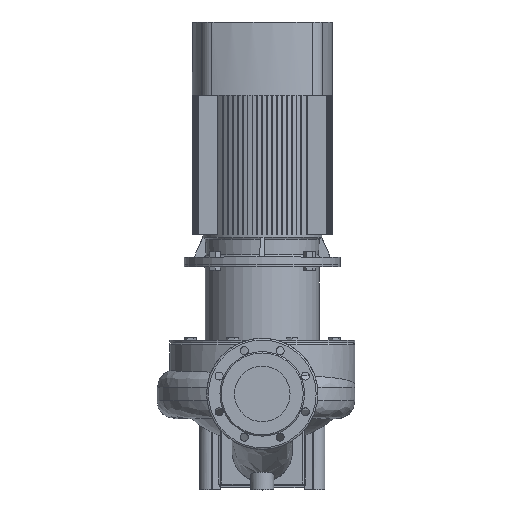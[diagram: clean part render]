
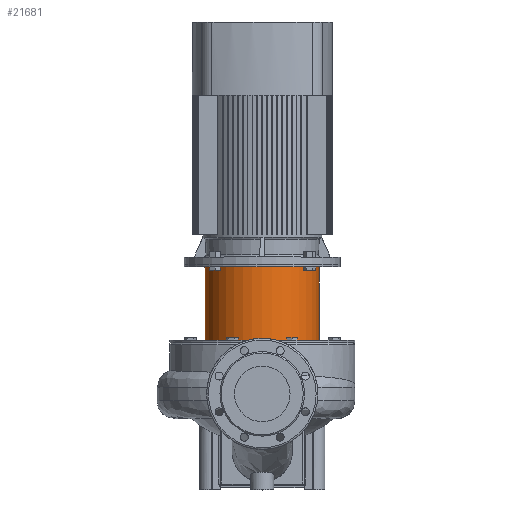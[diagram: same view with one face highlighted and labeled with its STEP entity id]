
A CAD part, top view. The second image highlights one B-rep face of the part: STEP entity #21681.
In plain terms, the highlighted cylindrical face has radius 128 mm (diameter 256 mm), a partial arc.
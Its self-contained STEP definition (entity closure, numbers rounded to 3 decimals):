
#78 = DIRECTION ( 'NONE',  ( 0., 0., 1. ) ) ;
#977 = CYLINDRICAL_SURFACE ( 'NONE', #27302, 128. ) ;
#3367 = DIRECTION ( 'NONE',  ( 1., 0., 0. ) ) ;
#3847 = CARTESIAN_POINT ( 'NONE',  ( -128., 0., 14.36 ) ) ;
#4008 = DIRECTION ( 'NONE',  ( 0., 0., 1. ) ) ;
#4235 = CARTESIAN_POINT ( 'NONE',  ( 128., 0., -6. ) ) ;
#5155 = CARTESIAN_POINT ( 'NONE',  ( 128., 0., -171. ) ) ;
#5781 = EDGE_CURVE ( 'NONE', #19597, #17549, #20288, .T. ) ;
#5942 = DIRECTION ( 'NONE',  ( 0., 0., 1. ) ) ;
#7815 = DIRECTION ( 'NONE',  ( 0., 0., 1. ) ) ;
#8515 = DIRECTION ( 'NONE',  ( 1., 0., 0. ) ) ;
#10612 = CIRCLE ( 'NONE', #28383, 128. ) ;
#12256 = ORIENTED_EDGE ( 'NONE', *, *, #23658, .F. ) ;
#13241 = ORIENTED_EDGE ( 'NONE', *, *, #5781, .T. ) ;
#15453 = CARTESIAN_POINT ( 'NONE',  ( 0., 0., 14.36 ) ) ;
#16948 = CARTESIAN_POINT ( 'NONE',  ( 0., 0., -6. ) ) ;
#16978 = VECTOR ( 'NONE', #5942, 1000. ) ;
#17549 = VERTEX_POINT ( 'NONE', #4235 ) ;
#17691 = AXIS2_PLACEMENT_3D ( 'NONE', #30330, #30801, #8515 ) ;
#18051 = EDGE_LOOP ( 'NONE', ( #29798, #27209, #13241, #12256 ) ) ;
#18673 = CIRCLE ( 'NONE', #17691, 128. ) ;
#19597 = VERTEX_POINT ( 'NONE', #5155 ) ;
#19715 = VECTOR ( 'NONE', #4008, 1000. ) ;
#20288 = LINE ( 'NONE', #20586, #16978 ) ;
#20571 = LINE ( 'NONE', #3847, #19715 ) ;
#20586 = CARTESIAN_POINT ( 'NONE',  ( 128., 0., 14.36 ) ) ;
#21681 = ADVANCED_FACE ( 'NONE', ( #27707 ), #977, .T. ) ;
#22216 = VERTEX_POINT ( 'NONE', #23504 ) ;
#22698 = EDGE_CURVE ( 'NONE', #22216, #19597, #18673, .T. ) ;
#23013 = CARTESIAN_POINT ( 'NONE',  ( -128., 0., -6. ) ) ;
#23504 = CARTESIAN_POINT ( 'NONE',  ( -128., 0., -171. ) ) ;
#23658 = EDGE_CURVE ( 'NONE', #25643, #17549, #10612, .T. ) ;
#24261 = DIRECTION ( 'NONE',  ( 1., 0., 0. ) ) ;
#25643 = VERTEX_POINT ( 'NONE', #23013 ) ;
#27209 = ORIENTED_EDGE ( 'NONE', *, *, #22698, .T. ) ;
#27302 = AXIS2_PLACEMENT_3D ( 'NONE', #15453, #7815, #3367 ) ;
#27707 = FACE_OUTER_BOUND ( 'NONE', #18051, .T. ) ;
#27983 = EDGE_CURVE ( 'NONE', #22216, #25643, #20571, .T. ) ;
#28383 = AXIS2_PLACEMENT_3D ( 'NONE', #16948, #78, #24261 ) ;
#29798 = ORIENTED_EDGE ( 'NONE', *, *, #27983, .F. ) ;
#30330 = CARTESIAN_POINT ( 'NONE',  ( 0., 0., -171. ) ) ;
#30801 = DIRECTION ( 'NONE',  ( 0., 0., 1. ) ) ;
